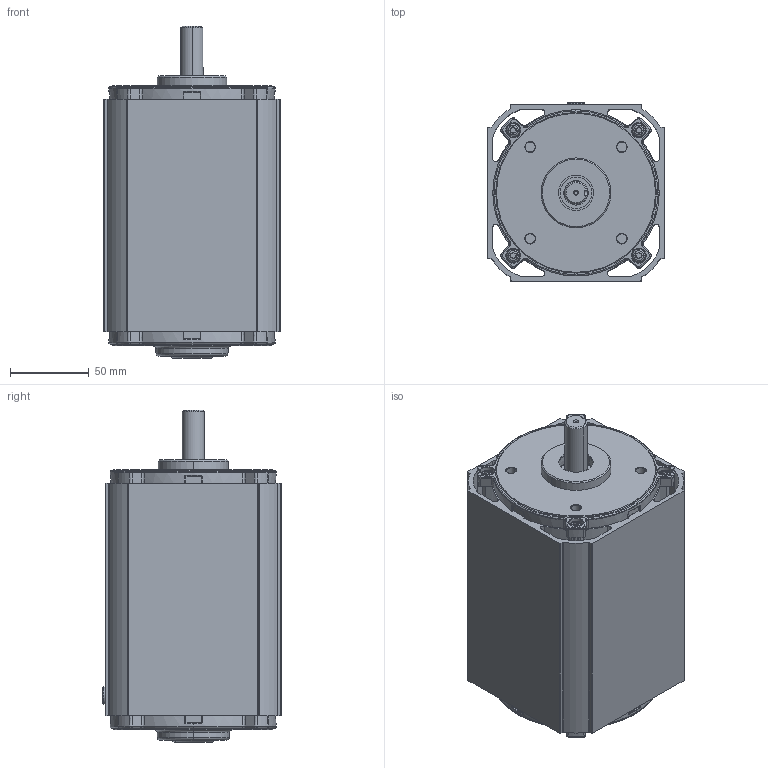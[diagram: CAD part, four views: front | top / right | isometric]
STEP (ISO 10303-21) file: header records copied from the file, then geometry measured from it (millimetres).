
FILE_DESCRIPTION (( 'STEP AP203' ), '1' );
FILE_NAME ('OUTLINE AC10060NV.STEP', '2007-10-30T17:46:33', ( 'eng-rjs2' ), ( 'groschopp' ), 'SwSTEP 2.0', 'SolidWorks 2008', '' );
FILE_SCHEMA (( 'CONFIG_CONTROL_DESIGN' ));
Length unit declared in the file: inch
Products named in the file (1): OUTLINE AC10060NV
Bounding box: 112.27 x 113.86 x 211.44 mm (x, y, z)
Surface area: 167124.1 mm2 (no closed solid volume)
Topology: 0 solids, 26 shells, 749 faces, 2146 edges, 1377 vertices
Faces by surface type: cylinder 255, plane 209, bspline 128, torus 80, cone 61, sphere 16
Entity records: 27432 total; most frequent: CARTESIAN_POINT 8775, DIRECTION 3866, ORIENTED_EDGE 3792, EDGE_CURVE 2146, AXIS2_PLACEMENT_3D 1578, VERTEX_POINT 1377, CIRCLE 956, EDGE_LOOP 782
